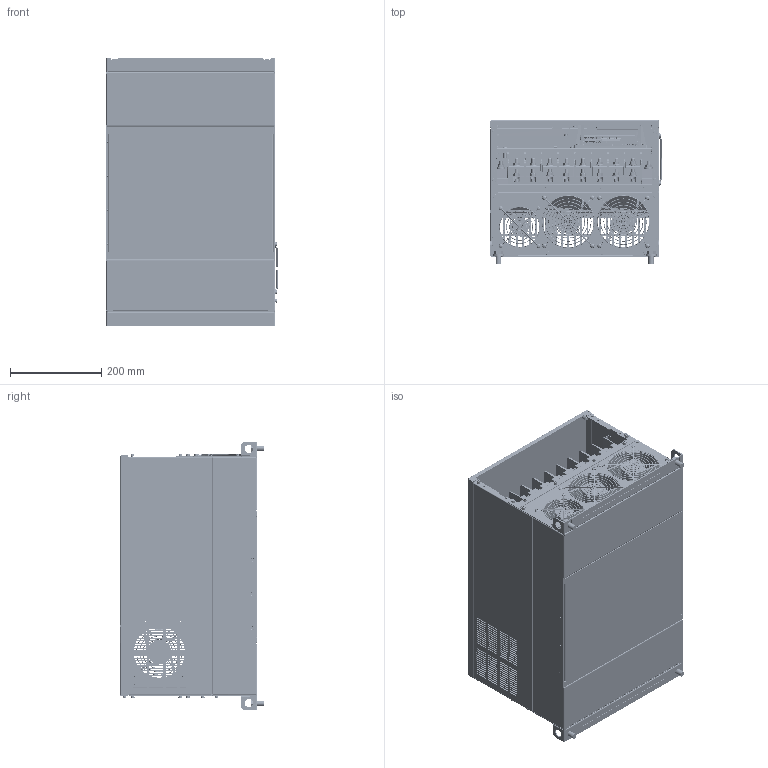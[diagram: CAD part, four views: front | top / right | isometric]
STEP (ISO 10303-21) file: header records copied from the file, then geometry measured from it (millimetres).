
FILE_DESCRIPTION((''),'2;1');
FILE_NAME('ASM0212_ASM','2019-02-13T',('COLA.LIU'),(''),'PRO/ENGINEER BY PARAMETRIC TECHNOLOGY CORPORATION, 2015240','PRO/ENGINEER BY PARAMETRIC TECHNOLOGY CORPORATION, 2015240','');
FILE_SCHEMA(('AUTOMOTIVE_DESIGN { 1 0 10303 214 1 1 1 1 }'));
Products named in the file (221): PRT0525; PRT0526; PRT0527; PRT0528; PRT0529; PRT0530; PRT0531; PRT0532; PRT0533; PRT0534; PRT0535; PRT0536; PRT0537; PRT0538; PRT0539; PRT0540; PRT0541; PRT0542; PRT0543; PRT0544; PRT0545; PRT0546; PRT0547; PRT0548; PRT0549; ASM0215_ASM; PRT0550; PRT0551; PRT0552; ASM0216_ASM; PRT0553; NUT_M4X2_1; FH-M6-12-ZI_1; ASM0217_ASM; PRT0554; ASM0218_ASM; PRT0555; ASM0219_ASM; PRT0556; PRT0557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
Assembly tree (467 placements, depth 11):
  ASM0212_ASM
    ASM0213_ASM
      ASM0214_ASM
        PRT0525
        ASM0215_ASM
          PRT0526
          PRT0527
          PRT0528
          PRT0529
          PRT0530
          PRT0531
          PRT0532
          PRT0533
          PRT0534
          PRT0535
          PRT0536
          PRT0537
          PRT0538
          PRT0539
          PRT0540
          PRT0541
          PRT0542
          PRT0543
          PRT0544
          PRT0545
          PRT0546
          PRT0547
          PRT0548
          PRT0549
        ASM0216_ASM
          PRT0550
          PRT0551  x8
          PRT0552  x10
        ASM0217_ASM
          PRT0553
          NUT_M4X2_1  x8
          FH-M6-12-ZI_1  x8
        ASM0218_ASM
          PRT0554  x8
        ASM0219_ASM
          PRT0555  x8
        ASM0220_ASM
          PRT0556
          PRT0557  x2
          PRT0558  x2
          PRT0559  x3
        ASM0221_ASM
          PRT0560
          31051622XX-SW-M5X10_1-41806  x6
          PRT0561  x2
        ASM0222_ASM
          PRT0562
          31051622XX-SW-M5X10_1-41806  x6
          M12_1  x2
        ASM0223_ASM
          PRT0563
          31051622XX-SW-M5X10_1-41806  x10
        ASM0224_ASM
          PRT0564
          PRT0565
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Bounding box: 375.55 x 315.3 x 589 mm (x, y, z)
Volume: 4974112.1 mm3; surface area: 4672427.9 mm2
Topology: 429 solids, 453 shells, 21233 faces, 56003 edges, 36652 vertices
Faces by surface type: plane 12688, cylinder 6287, torus 939, cone 612, extrusion 328, bspline 249, sphere 130
Entity records: 383112 total; most frequent: CARTESIAN_POINT 85173, ORIENTED_EDGE 58680, DIRECTION 58006, EDGE_CURVE 29340, VECTOR 20774, LINE 20446, VERTEX_POINT 19205, AXIS2_PLACEMENT_3D 18616
